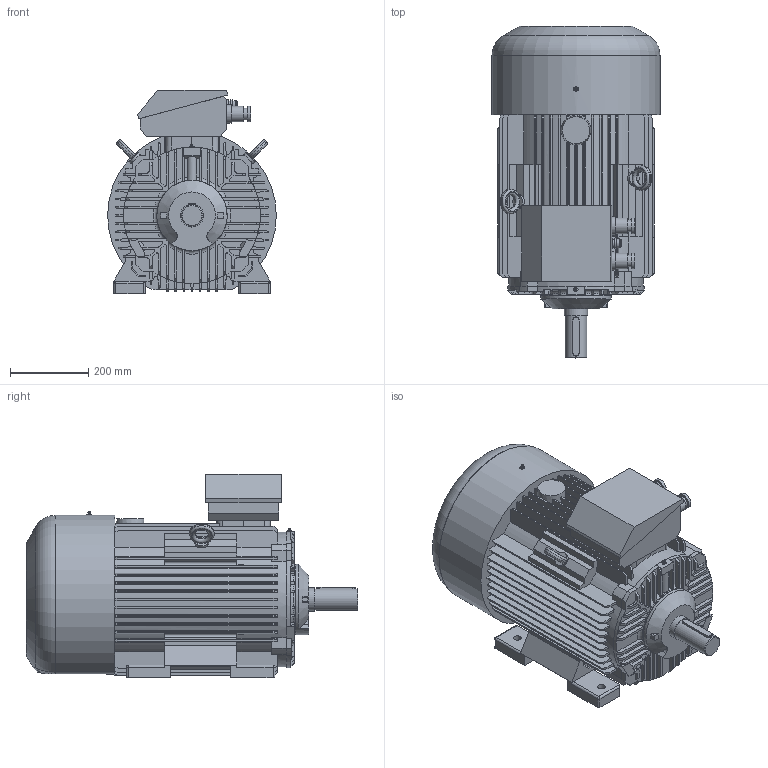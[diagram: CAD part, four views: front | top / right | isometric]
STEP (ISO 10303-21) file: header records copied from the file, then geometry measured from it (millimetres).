
FILE_DESCRIPTION( ( 'Unknown' ), '1' );
FILE_NAME( 'P:/3D_Bry³y silników skatalogowane/SIE/2SIE200/STEP/2SIE 200 silnik.stp', 'Unknown', ( 'Unknown' ), ( 'Unknown' ), 'XStep 1.0', 'Unknown', ' ' );
FILE_SCHEMA( ( 'CONFIG_CONTROL_DESIGN' ) );
Length unit declared in the file: millimetre
Products named in the file (1): 1
Bounding box: 432.02 x 850.06 x 520 mm (x, y, z)
Volume: 86070555.5 mm3; surface area: 2545072.9 mm2
Topology: 1 solids, 4 shells, 1013 faces, 2881 edges, 1902 vertices
Faces by surface type: plane 774, cylinder 185, torus 37, cone 9, bspline 4, sphere 4
Full cylindrical faces by diameter (mm): 1.6 x2, 5 x5, 12.891 x1, 19 x4, 20 x1, 22.969 x1, 26.249 x1, 27 x1, 30 x4, 35 x4, 40 x4, 47 x2, 55 x1, 59.498 x1, 178 x1, 180 x1
Entity records: 34982 total; most frequent: CARTESIAN_POINT 8581, ORIENTED_EDGE 5618, DIRECTION 5265, EDGE_CURVE 2809, LINE 2133, VECTOR 2133, VERTEX_POINT 1889, AXIS2_PLACEMENT_3D 1566
